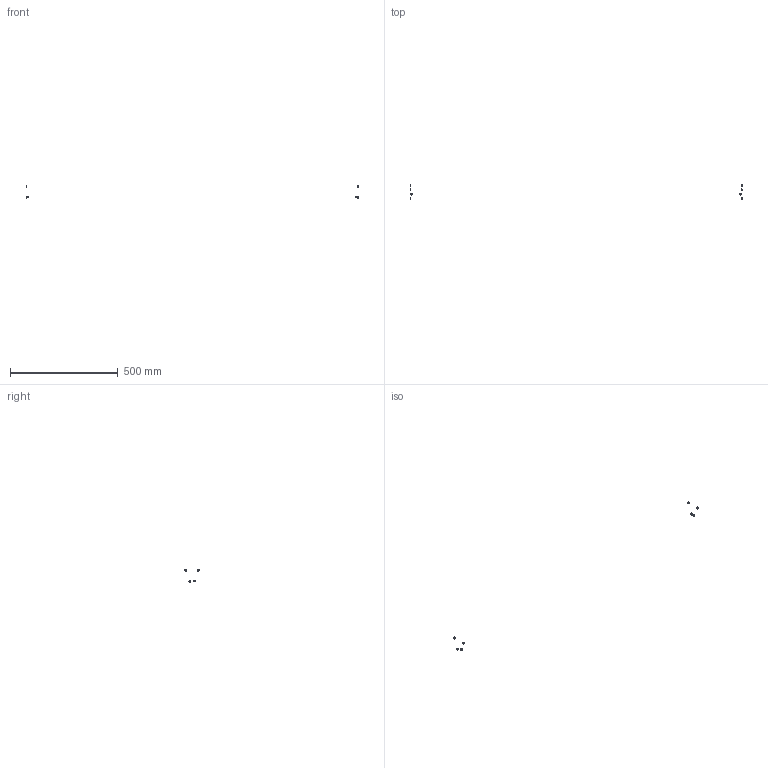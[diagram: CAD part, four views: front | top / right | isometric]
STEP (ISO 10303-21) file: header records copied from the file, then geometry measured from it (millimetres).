
FILE_DESCRIPTION(/* description */ (''),/* implementation_level */ '2;1');
FILE_NAME(/* name */ 'Y-AF2E~1',/* time_stamp */ '2014-02-14T19:37:46+01:00',/* author */ (''),/* organization */ (''),/* preprocessor_version */ 'ST-DEVELOPER v14',/* originating_system */ '',/* authorisation */ '');
FILE_SCHEMA (('AUTOMOTIVE_DESIGN'));
Length unit declared in the file: millimetre
Products named in the file (2): Document; nut DIN985-like, lock, M5
Assembly tree (4 placements, depth 2):
  Document
    nut DIN985-like, lock, M5  x4
Bounding box: 1542 x 69.24 x 62 mm (x, y, z)
Volume: 1407.8 mm3; surface area: 2174 mm2
Topology: 8 solids, 8 shells, 432 faces, 1040 edges, 624 vertices
Faces by surface type: bspline 248, plane 184
Entity records: 17698 total; most frequent: CARTESIAN_POINT 9557, ORIENTED_EDGE 1300, PCURVE 1300, DEFINITIONAL_REPRESENTATION 1300, B_SPLINE_CURVE_WITH_KNOTS 1245, SURFACE_CURVE 650, EDGE_CURVE 650, VERTEX_POINT 390
